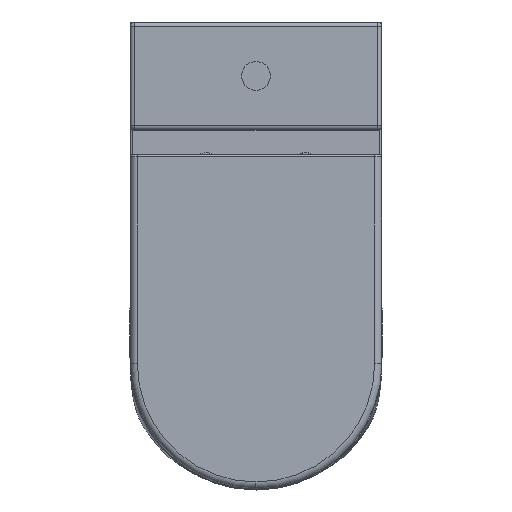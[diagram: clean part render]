
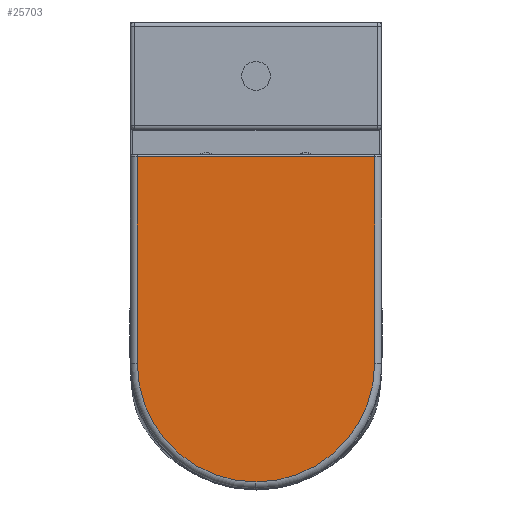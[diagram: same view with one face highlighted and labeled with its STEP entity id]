
A CAD part, top view. The second image highlights one B-rep face of the part: STEP entity #25703.
In plain terms, the highlighted planar face has unit normal (0, 0, 1) as drawn and (0, 1, 0) by its records, which use the part's own axes.
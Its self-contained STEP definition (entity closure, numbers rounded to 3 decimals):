
#839 = DIRECTION ( 'NONE',  ( 0., 1., 0. ) ) ;
#1354 = AXIS2_PLACEMENT_3D ( 'NONE', #35986, #40314, #14656 ) ;
#2027 = AXIS2_PLACEMENT_3D ( 'NONE', #49317, #23676, #53620 ) ;
#2089 = CARTESIAN_POINT ( 'NONE',  ( 165., 40., 290. ) ) ;
#6071 = PLANE ( 'NONE',  #1354 ) ;
#8296 = EDGE_CURVE ( 'NONE', #50658, #53331, #42734, .T. ) ;
#9926 = CARTESIAN_POINT ( 'NONE',  ( -165., 40., 290. ) ) ;
#10954 = VECTOR ( 'NONE', #43712, 1000. ) ;
#14656 = DIRECTION ( 'NONE',  ( 0., 0., 1. ) ) ;
#15966 = CARTESIAN_POINT ( 'NONE',  ( 0., 40., 455. ) ) ;
#17026 = VERTEX_POINT ( 'NONE', #17961 ) ;
#17471 = DIRECTION ( 'NONE',  ( 0., 0., 1. ) ) ;
#17961 = CARTESIAN_POINT ( 'NONE',  ( 165., 40., 3. ) ) ;
#18660 = EDGE_CURVE ( 'NONE', #17026, #36679, #28711, .T. ) ;
#18820 = ORIENTED_EDGE ( 'NONE', *, *, #18660, .T. ) ;
#19206 = ORIENTED_EDGE ( 'NONE', *, *, #22998, .T. ) ;
#19377 = AXIS2_PLACEMENT_3D ( 'NONE', #26476, #839, #30772 ) ;
#22998 = EDGE_CURVE ( 'NONE', #33537, #50658, #31806, .T. ) ;
#23676 = DIRECTION ( 'NONE',  ( 0., 1., 0. ) ) ;
#25703 = ADVANCED_FACE ( 'NONE', ( #37008 ), #6071, .T. ) ;
#26476 = CARTESIAN_POINT ( 'NONE',  ( 0., 40., 290. ) ) ;
#27145 = EDGE_LOOP ( 'NONE', ( #19206, #47722, #38690, #18820, #50583 ) ) ;
#28711 = LINE ( 'NONE', #53978, #38738 ) ;
#30772 = DIRECTION ( 'NONE',  ( 0., 0., 1. ) ) ;
#31806 = CIRCLE ( 'NONE', #2027, 165. ) ;
#33537 = VERTEX_POINT ( 'NONE', #9926 ) ;
#35986 = CARTESIAN_POINT ( 'NONE',  ( 0., 40., 290. ) ) ;
#36519 = EDGE_CURVE ( 'NONE', #17026, #53331, #55182, .T. ) ;
#36679 = VERTEX_POINT ( 'NONE', #40858 ) ;
#37008 = FACE_OUTER_BOUND ( 'NONE', #27145, .T. ) ;
#38346 = VECTOR ( 'NONE', #17471, 1000. ) ;
#38690 = ORIENTED_EDGE ( 'NONE', *, *, #36519, .F. ) ;
#38738 = VECTOR ( 'NONE', #41067, 1000. ) ;
#38799 = CARTESIAN_POINT ( 'NONE',  ( -165., 40., 290. ) ) ;
#40314 = DIRECTION ( 'NONE',  ( 0., 1., 0. ) ) ;
#40858 = CARTESIAN_POINT ( 'NONE',  ( -165., 40., 3. ) ) ;
#41067 = DIRECTION ( 'NONE',  ( -1., 0., 0. ) ) ;
#42734 = CIRCLE ( 'NONE', #19377, 165. ) ;
#43712 = DIRECTION ( 'NONE',  ( 0., 0., 1. ) ) ;
#47722 = ORIENTED_EDGE ( 'NONE', *, *, #8296, .T. ) ;
#47795 = EDGE_CURVE ( 'NONE', #36679, #33537, #49735, .T. ) ;
#47996 = CARTESIAN_POINT ( 'NONE',  ( 165., 40., 290. ) ) ;
#49317 = CARTESIAN_POINT ( 'NONE',  ( 0., 40., 290. ) ) ;
#49735 = LINE ( 'NONE', #38799, #38346 ) ;
#50583 = ORIENTED_EDGE ( 'NONE', *, *, #47795, .T. ) ;
#50658 = VERTEX_POINT ( 'NONE', #15966 ) ;
#53331 = VERTEX_POINT ( 'NONE', #2089 ) ;
#53620 = DIRECTION ( 'NONE',  ( 0., 0., 1. ) ) ;
#53978 = CARTESIAN_POINT ( 'NONE',  ( -165., 40., 3. ) ) ;
#55182 = LINE ( 'NONE', #47996, #10954 ) ;
